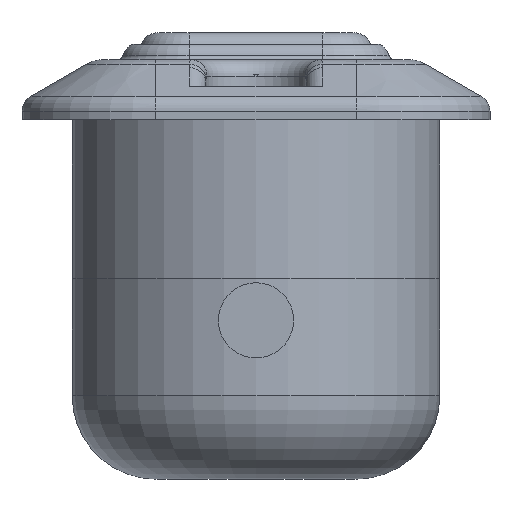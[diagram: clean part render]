
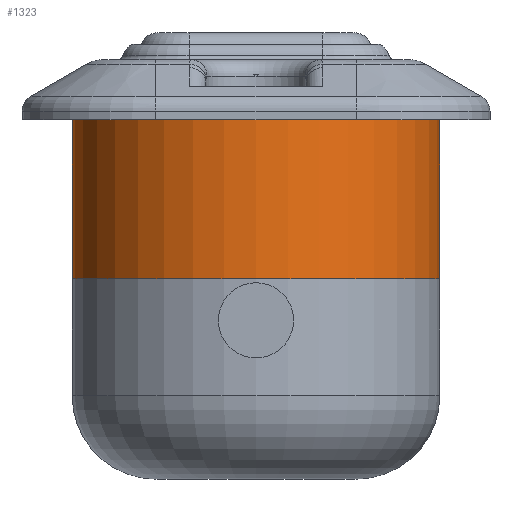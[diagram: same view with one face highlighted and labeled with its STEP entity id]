
A CAD part, front view. The second image highlights one B-rep face of the part: STEP entity #1323.
In plain terms, the highlighted cylindrical face has radius 11 mm (diameter 22 mm), a partial arc.
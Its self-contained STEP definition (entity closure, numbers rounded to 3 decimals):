
#567 = ORIENTED_EDGE ( 'NONE', *, *, #5917, .F. ) ;
#678 = ORIENTED_EDGE ( 'NONE', *, *, #5913, .T. ) ;
#755 = ORIENTED_EDGE ( 'NONE', *, *, #5925, .F. ) ;
#770 = ORIENTED_EDGE ( 'NONE', *, *, #5902, .F. ) ;
#1053 = AXIS2_PLACEMENT_3D ( 'NONE', #5065, #5056, #5055 ) ;
#1062 = AXIS2_PLACEMENT_3D ( 'NONE', #4447, #4705, #4689 ) ;
#1323 = ADVANCED_FACE ( 'NONE', ( #8881 ), #8889, .T. ) ;
#1476 = CARTESIAN_POINT ( 'NONE',  ( -3.849, -43.774, 13.36 ) ) ;
#1478 = CARTESIAN_POINT ( 'NONE',  ( 18.151, -43.774, 22.86 ) ) ;
#1977 = VECTOR ( 'NONE', #4697, 1000. ) ;
#1978 = CIRCLE ( 'NONE', #1053, 11. ) ;
#1983 = LINE ( 'NONE', #4701, #1977 ) ;
#1993 = LINE ( 'NONE', #5111, #1994 ) ;
#1994 = VECTOR ( 'NONE', #4721, 1000. ) ;
#2012 = CIRCLE ( 'NONE', #1062, 11. ) ;
#2153 = CARTESIAN_POINT ( 'NONE',  ( 18.151, -43.774, 13.36 ) ) ;
#2288 = CARTESIAN_POINT ( 'NONE',  ( -3.849, -43.774, 22.86 ) ) ;
#4000 = AXIS2_PLACEMENT_3D ( 'NONE', #7903, #7949, #7943 ) ;
#4447 = CARTESIAN_POINT ( 'NONE',  ( 7.151, -43.774, 13.36 ) ) ;
#4689 = DIRECTION ( 'NONE',  ( -1., 0., 0. ) ) ;
#4697 = DIRECTION ( 'NONE',  ( 0., 0., -1. ) ) ;
#4701 = CARTESIAN_POINT ( 'NONE',  ( 18.151, -43.774, 22.86 ) ) ;
#4705 = DIRECTION ( 'NONE',  ( 0., 0., -1. ) ) ;
#4721 = DIRECTION ( 'NONE',  ( 0., 0., -1. ) ) ;
#5055 = DIRECTION ( 'NONE',  ( 1., 0., 0. ) ) ;
#5056 = DIRECTION ( 'NONE',  ( 0., 0., 1. ) ) ;
#5065 = CARTESIAN_POINT ( 'NONE',  ( 7.151, -43.774, 22.86 ) ) ;
#5111 = CARTESIAN_POINT ( 'NONE',  ( -3.849, -43.774, 22.86 ) ) ;
#5902 = EDGE_CURVE ( 'NONE', #6881, #7188, #1978, .T. ) ;
#5913 = EDGE_CURVE ( 'NONE', #6881, #7192, #1993, .T. ) ;
#5917 = EDGE_CURVE ( 'NONE', #7188, #7166, #1983, .T. ) ;
#5925 = EDGE_CURVE ( 'NONE', #7166, #7192, #2012, .T. ) ;
#6881 = VERTEX_POINT ( 'NONE', #2288 ) ;
#7166 = VERTEX_POINT ( 'NONE', #2153 ) ;
#7188 = VERTEX_POINT ( 'NONE', #1478 ) ;
#7192 = VERTEX_POINT ( 'NONE', #1476 ) ;
#7903 = CARTESIAN_POINT ( 'NONE',  ( 7.151, -43.774, 22.86 ) ) ;
#7943 = DIRECTION ( 'NONE',  ( -1., 0., 0. ) ) ;
#7949 = DIRECTION ( 'NONE',  ( 0., 0., -1. ) ) ;
#8500 = EDGE_LOOP ( 'NONE', ( #678, #755, #567, #770 ) ) ;
#8881 = FACE_OUTER_BOUND ( 'NONE', #8500, .T. ) ;
#8889 = CYLINDRICAL_SURFACE ( 'NONE', #4000, 11. ) ;
